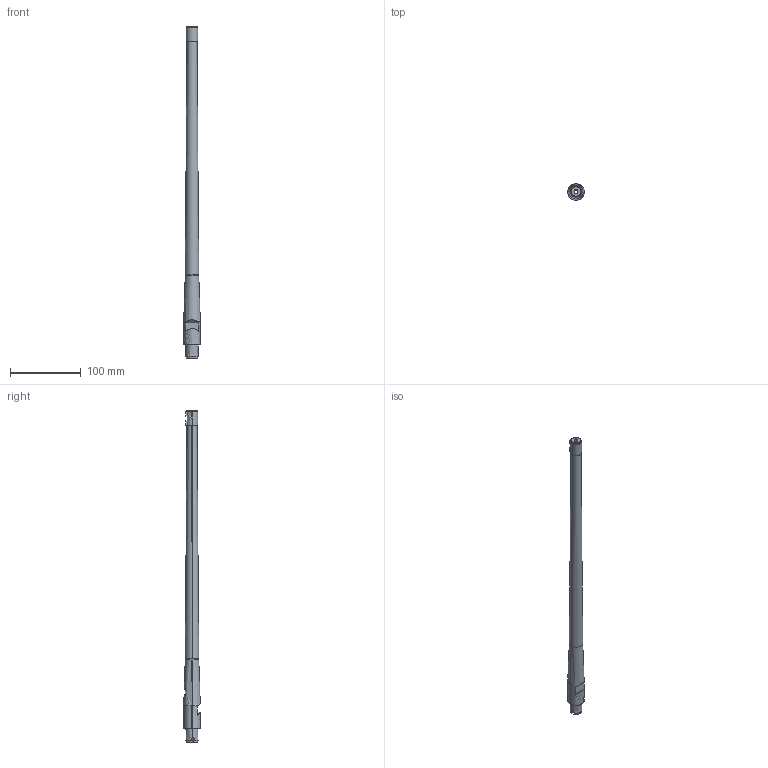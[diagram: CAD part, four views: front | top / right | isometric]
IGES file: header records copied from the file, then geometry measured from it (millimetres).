
Start section: SolidWorks IGES file using analytic representation for surfaces
Global section: file name: C:\Users\Jose\Documents\Personal Projects\Ruger 10-22\Stock 10-22 Carbine Barrel.IGS; native system: SolidWorks 2014; preprocessor: SolidWorks 2014; author: Jose; date: 150105.184252; units: inch
Bounding box: 23.5 x 23.5 x 469.9 mm (x, y, z)
Surface area: 35510.1 mm2 (no closed solid volume)
Topology: 0 solids, 0 shells, 48 faces, 586 edges, 585 vertices
Faces by surface type: bspline 29, revolution 19
